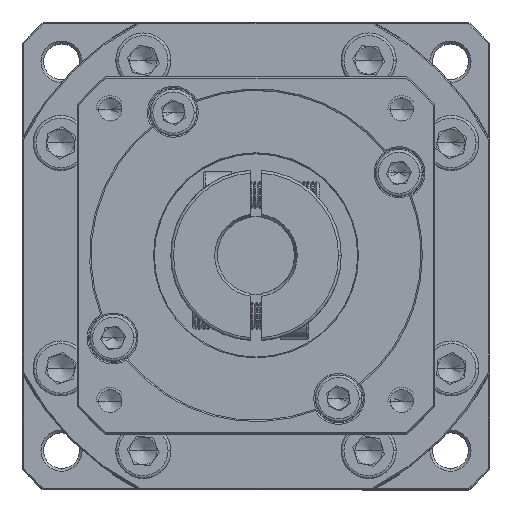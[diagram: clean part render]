
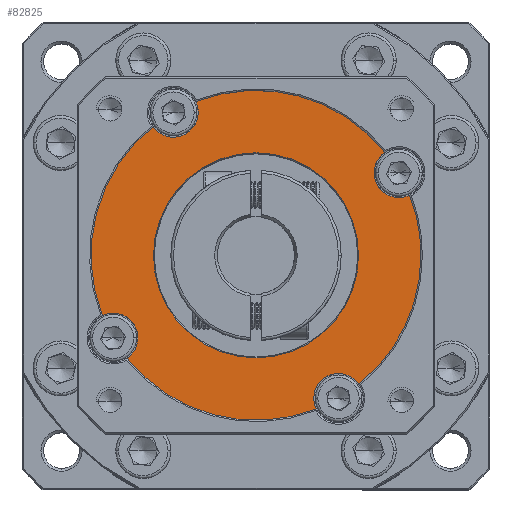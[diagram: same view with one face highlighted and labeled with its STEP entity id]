
A CAD part, top view. The second image highlights one B-rep face of the part: STEP entity #82825.
In plain terms, the highlighted planar face has unit normal (0, 0, 1).
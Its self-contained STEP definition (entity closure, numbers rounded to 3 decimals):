
#131 = CIRCLE ( 'NONE', #40566, 18.644 ) ;
#2656 = DIRECTION ( 'NONE',  ( 1., 0., 0. ) ) ;
#3108 = DIRECTION ( 'NONE',  ( 1., 0., 0. ) ) ;
#3829 = ORIENTED_EDGE ( 'NONE', *, *, #31565, .T. ) ;
#4506 = CARTESIAN_POINT ( 'NONE',  ( -69.004, 31.147, 13.42 ) ) ;
#4597 = EDGE_LOOP ( 'NONE', ( #97055, #68200, #89225, #110661, #87718, #74820, #41699, #56593, #21570, #80565, #31705, #3829, #112961 ) ) ;
#4657 = CARTESIAN_POINT ( 'NONE',  ( -69.004, 31.147, 13.42 ) ) ;
#4693 = CARTESIAN_POINT ( 'NONE',  ( -39.004, 31.147, 13.42 ) ) ;
#7658 = EDGE_CURVE ( 'NONE', #16282, #104082, #72110, .T. ) ;
#8844 = CARTESIAN_POINT ( 'NONE',  ( -50.287, 7.702, 13.42 ) ) ;
#10173 = EDGE_CURVE ( 'NONE', #28116, #39529, #36706, .T. ) ;
#11149 = VERTEX_POINT ( 'NONE', #90442 ) ;
#11155 = AXIS2_PLACEMENT_3D ( 'NONE', #4506, #68680, #13733 ) ;
#12010 = CIRCLE ( 'NONE', #65892, 18.644 ) ;
#12417 = AXIS2_PLACEMENT_3D ( 'NONE', #95986, #41084, #105322 ) ;
#12644 = CARTESIAN_POINT ( 'NONE',  ( -79.949, 59.079, 13.42 ) ) ;
#12755 = CARTESIAN_POINT ( 'NONE',  ( -50.36, 31.147, 13.42 ) ) ;
#13348 = CARTESIAN_POINT ( 'NONE',  ( -79.504, 57.128, 13.42 ) ) ;
#13733 = DIRECTION ( 'NONE',  ( 1., 0., 0. ) ) ;
#13869 = DIRECTION ( 'NONE',  ( 1., 0., 0. ) ) ;
#14104 = VERTEX_POINT ( 'NONE', #12755 ) ;
#14431 = CARTESIAN_POINT ( 'NONE',  ( -54.004, 5.166, 13.42 ) ) ;
#14905 = CARTESIAN_POINT ( 'NONE',  ( -69.004, 31.147, 13.42 ) ) ;
#16282 = VERTEX_POINT ( 'NONE', #4693 ) ;
#20542 = CIRCLE ( 'NONE', #53985, 4.5 ) ;
#21570 = ORIENTED_EDGE ( 'NONE', *, *, #61991, .T. ) ;
#22526 = CARTESIAN_POINT ( 'NONE',  ( -87.648, 31.147, 13.42 ) ) ;
#23664 = DIRECTION ( 'NONE',  ( 1., 0., 0. ) ) ;
#24128 = DIRECTION ( 'NONE',  ( 1., 0., 0. ) ) ;
#25011 = CARTESIAN_POINT ( 'NONE',  ( -84.004, 57.128, 13.42 ) ) ;
#25369 = VERTEX_POINT ( 'NONE', #8844 ) ;
#26410 = CARTESIAN_POINT ( 'NONE',  ( -69.004, 31.147, 13.42 ) ) ;
#27835 = EDGE_CURVE ( 'NONE', #94363, #66840, #81543, .T. ) ;
#27878 = AXIS2_PLACEMENT_3D ( 'NONE', #112607, #57583, #2656 ) ;
#28116 = VERTEX_POINT ( 'NONE', #80013 ) ;
#28404 = EDGE_CURVE ( 'NONE', #28116, #46144, #85596, .T. ) ;
#30682 = ORIENTED_EDGE ( 'NONE', *, *, #44103, .T. ) ;
#31565 = EDGE_CURVE ( 'NONE', #44435, #68063, #33425, .T. ) ;
#31705 = ORIENTED_EDGE ( 'NONE', *, *, #58571, .F. ) ;
#33425 = CIRCLE ( 'NONE', #90576, 30. ) ;
#33667 = DIRECTION ( 'NONE',  ( 0., 0., 1. ) ) ;
#34238 = DIRECTION ( 'NONE',  ( 1., 0., 0. ) ) ;
#34435 = EDGE_CURVE ( 'NONE', #25369, #44219, #93447, .T. ) ;
#34930 = CARTESIAN_POINT ( 'NONE',  ( -43.023, 46.147, 13.42 ) ) ;
#35239 = PLANE ( 'NONE',  #91762 ) ;
#35646 = DIRECTION ( 'NONE',  ( 1., 0., 0. ) ) ;
#36000 = CARTESIAN_POINT ( 'NONE',  ( -41.072, 42.092, 13.42 ) ) ;
#36706 = CIRCLE ( 'NONE', #11155, 30. ) ;
#38663 = EDGE_CURVE ( 'NONE', #11149, #64082, #68597, .T. ) ;
#38679 = AXIS2_PLACEMENT_3D ( 'NONE', #14431, #78596, #23664 ) ;
#38904 = CARTESIAN_POINT ( 'NONE',  ( -87.721, 54.592, 13.42 ) ) ;
#39287 = CARTESIAN_POINT ( 'NONE',  ( -54.004, 5.166, 13.42 ) ) ;
#39529 = VERTEX_POINT ( 'NONE', #89795 ) ;
#39807 = DIRECTION ( 'NONE',  ( 0., 0., 1. ) ) ;
#40566 = AXIS2_PLACEMENT_3D ( 'NONE', #51378, #115645, #60573 ) ;
#41084 = DIRECTION ( 'NONE',  ( 0., 0., 1. ) ) ;
#41699 = ORIENTED_EDGE ( 'NONE', *, *, #44633, .F. ) ;
#44103 = EDGE_CURVE ( 'NONE', #50056, #14104, #12010, .T. ) ;
#44149 = DIRECTION ( 'NONE',  ( 1., 0., 0. ) ) ;
#44219 = VERTEX_POINT ( 'NONE', #70232 ) ;
#44435 = VERTEX_POINT ( 'NONE', #38904 ) ;
#44633 = EDGE_CURVE ( 'NONE', #64082, #104082, #46210, .T. ) ;
#45322 = DIRECTION ( 'NONE',  ( 0., 0., 1. ) ) ;
#46144 = VERTEX_POINT ( 'NONE', #72320 ) ;
#46210 = CIRCLE ( 'NONE', #95910, 4.5 ) ;
#46259 = AXIS2_PLACEMENT_3D ( 'NONE', #4657, #68825, #13869 ) ;
#47529 = FACE_BOUND ( 'NONE', #103718, .T. ) ;
#48340 = AXIS2_PLACEMENT_3D ( 'NONE', #34930, #99064, #44149 ) ;
#48487 = DIRECTION ( 'NONE',  ( 1., 0., 0. ) ) ;
#50056 = VERTEX_POINT ( 'NONE', #22526 ) ;
#50589 = DIRECTION ( 'NONE',  ( 0., 0., -1. ) ) ;
#51378 = CARTESIAN_POINT ( 'NONE',  ( -69.004, 31.147, 13.42 ) ) ;
#53985 = AXIS2_PLACEMENT_3D ( 'NONE', #100247, #45322, #109534 ) ;
#54597 = CIRCLE ( 'NONE', #54850, 30. ) ;
#54850 = AXIS2_PLACEMENT_3D ( 'NONE', #14905, #79044, #24128 ) ;
#56275 = CARTESIAN_POINT ( 'NONE',  ( -47.523, 46.147, 13.42 ) ) ;
#56593 = ORIENTED_EDGE ( 'NONE', *, *, #38663, .F. ) ;
#57583 = DIRECTION ( 'NONE',  ( 0., 0., 1. ) ) ;
#58031 = DIRECTION ( 'NONE',  ( 0., 0., 1. ) ) ;
#58571 = EDGE_CURVE ( 'NONE', #44435, #94363, #69329, .T. ) ;
#58756 = CIRCLE ( 'NONE', #46259, 30. ) ;
#60573 = DIRECTION ( 'NONE',  ( 1., 0., 0. ) ) ;
#61991 = EDGE_CURVE ( 'NONE', #11149, #66840, #58756, .T. ) ;
#64058 = AXIS2_PLACEMENT_3D ( 'NONE', #94753, #39807, #104053 ) ;
#64082 = VERTEX_POINT ( 'NONE', #56275 ) ;
#65715 = AXIS2_PLACEMENT_3D ( 'NONE', #25011, #89177, #34238 ) ;
#65892 = AXIS2_PLACEMENT_3D ( 'NONE', #105643, #50589, #114837 ) ;
#66840 = VERTEX_POINT ( 'NONE', #12644 ) ;
#68063 = VERTEX_POINT ( 'NONE', #84067 ) ;
#68200 = ORIENTED_EDGE ( 'NONE', *, *, #10173, .T. ) ;
#68597 = CIRCLE ( 'NONE', #48340, 4.5 ) ;
#68680 = DIRECTION ( 'NONE',  ( 0., 0., 1. ) ) ;
#68825 = DIRECTION ( 'NONE',  ( 0., 0., 1. ) ) ;
#69329 = CIRCLE ( 'NONE', #65715, 4.5 ) ;
#70232 = CARTESIAN_POINT ( 'NONE',  ( -58.504, 5.166, 13.42 ) ) ;
#71102 = EDGE_CURVE ( 'NONE', #25369, #16282, #54597, .T. ) ;
#72110 = CIRCLE ( 'NONE', #12417, 30. ) ;
#72320 = CARTESIAN_POINT ( 'NONE',  ( -90.485, 16.147, 13.42 ) ) ;
#74820 = ORIENTED_EDGE ( 'NONE', *, *, #7658, .T. ) ;
#78596 = DIRECTION ( 'NONE',  ( 0., 0., 1. ) ) ;
#79044 = DIRECTION ( 'NONE',  ( 0., 0., 1. ) ) ;
#80013 = CARTESIAN_POINT ( 'NONE',  ( -92.449, 12.43, 13.42 ) ) ;
#80565 = ORIENTED_EDGE ( 'NONE', *, *, #27835, .F. ) ;
#81543 = CIRCLE ( 'NONE', #27878, 4.5 ) ;
#82675 = EDGE_CURVE ( 'NONE', #44219, #39529, #103638, .T. ) ;
#82825 = ADVANCED_FACE ( 'NONE', ( #47529, #117924 ), #35239, .T. ) ;
#84067 = CARTESIAN_POINT ( 'NONE',  ( -96.936, 20.202, 13.42 ) ) ;
#85596 = CIRCLE ( 'NONE', #64058, 4.5 ) ;
#87718 = ORIENTED_EDGE ( 'NONE', *, *, #71102, .T. ) ;
#88608 = CARTESIAN_POINT ( 'NONE',  ( -43.023, 46.147, 13.42 ) ) ;
#89177 = DIRECTION ( 'NONE',  ( 0., 0., 1. ) ) ;
#89225 = ORIENTED_EDGE ( 'NONE', *, *, #82675, .F. ) ;
#89795 = CARTESIAN_POINT ( 'NONE',  ( -58.059, 3.215, 13.42 ) ) ;
#90442 = CARTESIAN_POINT ( 'NONE',  ( -45.559, 49.865, 13.42 ) ) ;
#90569 = DIRECTION ( 'NONE',  ( 0., 0., 1. ) ) ;
#90576 = AXIS2_PLACEMENT_3D ( 'NONE', #113050, #58031, #3108 ) ;
#91762 = AXIS2_PLACEMENT_3D ( 'NONE', #26410, #90569, #35646 ) ;
#92711 = EDGE_CURVE ( 'NONE', #46144, #68063, #20542, .T. ) ;
#93447 = CIRCLE ( 'NONE', #110031, 4.5 ) ;
#94363 = VERTEX_POINT ( 'NONE', #13348 ) ;
#94753 = CARTESIAN_POINT ( 'NONE',  ( -94.985, 16.147, 13.42 ) ) ;
#95910 = AXIS2_PLACEMENT_3D ( 'NONE', #88608, #33667, #97801 ) ;
#95986 = CARTESIAN_POINT ( 'NONE',  ( -69.004, 31.147, 13.42 ) ) ;
#97055 = ORIENTED_EDGE ( 'NONE', *, *, #28404, .F. ) ;
#97801 = DIRECTION ( 'NONE',  ( 1., 0., 0. ) ) ;
#99064 = DIRECTION ( 'NONE',  ( 0., 0., 1. ) ) ;
#100247 = CARTESIAN_POINT ( 'NONE',  ( -94.985, 16.147, 13.42 ) ) ;
#103503 = DIRECTION ( 'NONE',  ( 0., 0., 1. ) ) ;
#103638 = CIRCLE ( 'NONE', #38679, 4.5 ) ;
#103718 = EDGE_LOOP ( 'NONE', ( #112437, #30682 ) ) ;
#104053 = DIRECTION ( 'NONE',  ( 1., 0., 0. ) ) ;
#104082 = VERTEX_POINT ( 'NONE', #36000 ) ;
#105322 = DIRECTION ( 'NONE',  ( 1., 0., 0. ) ) ;
#105643 = CARTESIAN_POINT ( 'NONE',  ( -69.004, 31.147, 13.42 ) ) ;
#109359 = EDGE_CURVE ( 'NONE', #14104, #50056, #131, .T. ) ;
#109534 = DIRECTION ( 'NONE',  ( 1., 0., 0. ) ) ;
#110031 = AXIS2_PLACEMENT_3D ( 'NONE', #39287, #103503, #48487 ) ;
#110661 = ORIENTED_EDGE ( 'NONE', *, *, #34435, .F. ) ;
#112437 = ORIENTED_EDGE ( 'NONE', *, *, #109359, .T. ) ;
#112607 = CARTESIAN_POINT ( 'NONE',  ( -84.004, 57.128, 13.42 ) ) ;
#112961 = ORIENTED_EDGE ( 'NONE', *, *, #92711, .F. ) ;
#113050 = CARTESIAN_POINT ( 'NONE',  ( -69.004, 31.147, 13.42 ) ) ;
#114837 = DIRECTION ( 'NONE',  ( 1., 0., 0. ) ) ;
#115645 = DIRECTION ( 'NONE',  ( 0., 0., -1. ) ) ;
#117924 = FACE_OUTER_BOUND ( 'NONE', #4597, .T. ) ;
